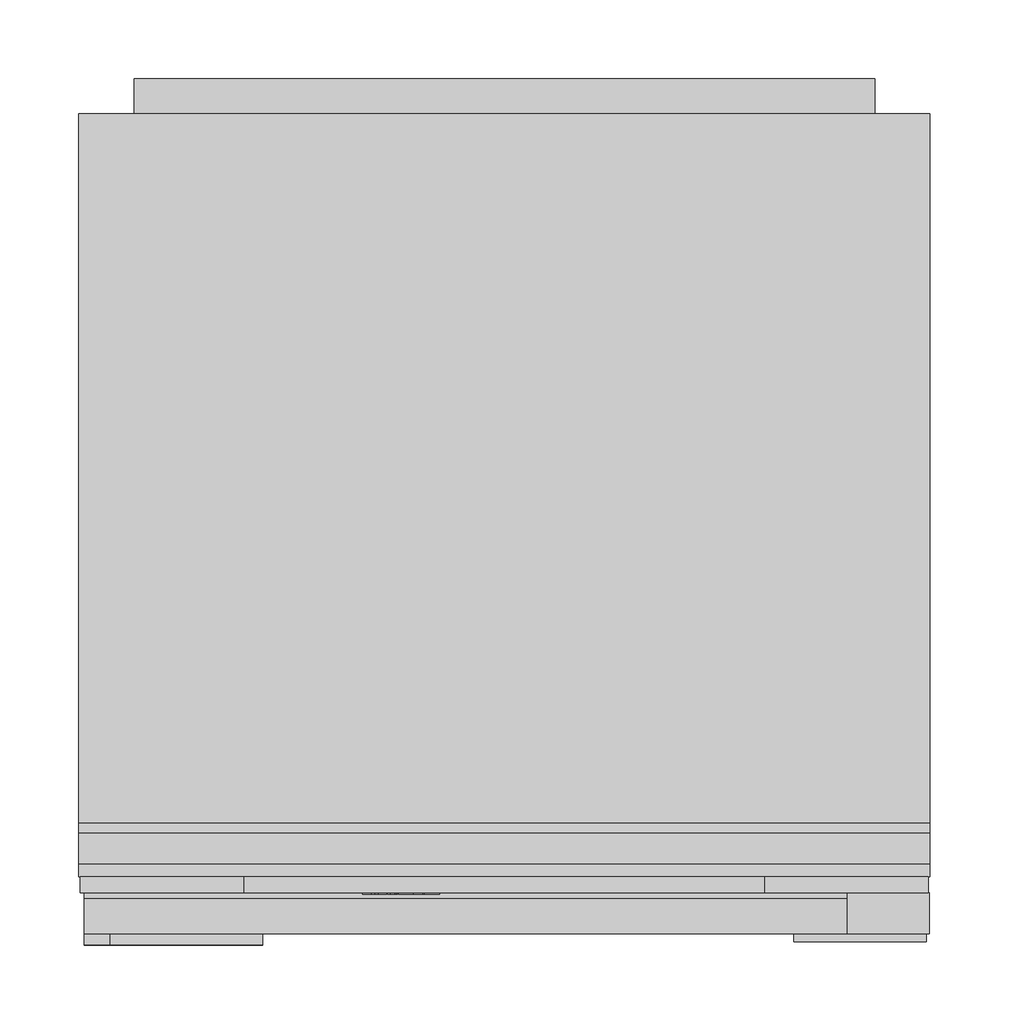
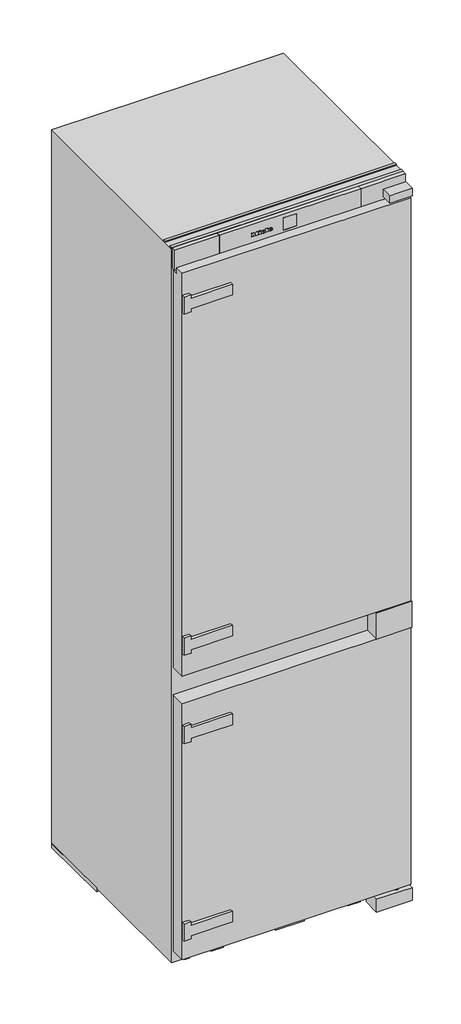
# Not in any storey: 1 proxy.
"""IFC4 building model written with IfcOpenShell, lengths in millimetres."""

import ifcopenshell
import ifcopenshell.guid

model = None  # the IFC model being written
_history = None  # IfcOwnerHistory: only IFC2X3 demands one
_inside = {}  # id of a spatial element -> (the spatial element, [elements in it])
_under = {}  # id of a project, library or spatial element -> (it, [spatial elements below it])
_declared = {}  # id of a project -> (the project, [libraries it declares])
_typed = {}  # id of a type object -> (the type object, [elements of that type])
_made_of = {}  # id of a material, layer set ... -> (it, [elements and type objects made of it])


def new_model(schema):
    """Start an empty IFC model of exactly this schema.

    Asked for "IFC4X3", IfcOpenShell would pick the latest addendum, in which some entities
    have other attributes; the version numbers below select the first issue.
    IFC2X3 requires an IfcOwnerHistory on every rooted entity: one is made here for all.
    """
    global model, _history
    if schema == "IFC4X3":
        model = ifcopenshell.file(schema_version=(4, 3, 0, 0))
    else:
        model = ifcopenshell.file(schema=schema)
    _inside.clear()
    _under.clear()
    _declared.clear()
    _typed.clear()
    _made_of.clear()
    _history = None
    if model.schema == "IFC2X3":
        org = make("IfcOrganization", Name="unknown")
        user = make(
            "IfcPersonAndOrganization",
            ThePerson=make("IfcPerson", FamilyName="unknown"),
            TheOrganization=org,
        )
        app = make(
            "IfcApplication",
            ApplicationDeveloper=org,
            Version="unknown",
            ApplicationFullName="unknown",
            ApplicationIdentifier="unknown",
        )
        _history = make(
            "IfcOwnerHistory",
            OwningUser=user,
            OwningApplication=app,
            ChangeAction="ADDED",
            CreationDate=0,
        )
    return model


def make(cls, **values):
    """One entity of the class cls with the attributes given. An attribute that is None is left unset."""
    return model.create_entity(
        cls, **{name: value for name, value in values.items() if value is not None}
    )


def rooted(cls, **values):
    """An entity with a GlobalId (a new one), such as an element, a storey or a relation."""
    return make(cls, GlobalId=ifcopenshell.guid.new(), OwnerHistory=_history, **values)


def si_unit(unit_type, name, prefix=None):
    """IfcSIUnit, for example si_unit("LENGTHUNIT", "METRE", prefix="MILLI")."""
    return make("IfcSIUnit", UnitType=unit_type, Prefix=prefix, Name=name)


def assignment(units):
    """IfcUnitAssignment: the units of a project."""
    return None if units is None else make("IfcUnitAssignment", Units=units)


def point(xyz):
    """IfcCartesianPoint."""
    return None if xyz is None else make("IfcCartesianPoint", Coordinates=xyz)


def direction(xyz):
    """IfcDirection."""
    return None if xyz is None else make("IfcDirection", DirectionRatios=xyz)


def frame(location, z_axis=None, x_axis=None):
    """IfcAxis2Placement3D, a coordinate frame: its origin and axes. An axis left out is left unset."""
    return make(
        "IfcAxis2Placement3D",
        Location=point(location),
        Axis=direction(z_axis),
        RefDirection=direction(x_axis),
    )


def frame_2d(location, x_axis=None):
    """IfcAxis2Placement2D, a coordinate frame in the plane: its origin and x axis."""
    return make(
        "IfcAxis2Placement2D", Location=point(location), RefDirection=direction(x_axis)
    )


def origin():
    """The frame at (0, 0, 0) with its axes left unset."""
    return frame((0.0, 0.0, 0.0))


def origin_with_axes():
    """The frame at (0, 0, 0) with the z axis (0, 0, 1) and the x axis (1, 0, 0) written out."""
    return frame((0.0, 0.0, 0.0), z_axis=(0.0, 0.0, 1.0), x_axis=(1.0, 0.0, 0.0))


def place(relative_to, where):
    """IfcLocalPlacement: puts the frame where relative to a parent placement (None: the world)."""
    return make(
        "IfcLocalPlacement", PlacementRelTo=relative_to, RelativePlacement=where
    )


def context(
    kind, dimensions, precision=None, world=None, true_north=None, identifier=None
):
    """IfcGeometricRepresentationContext, for example the 3D "Model" context."""
    return make(
        "IfcGeometricRepresentationContext",
        ContextIdentifier=identifier,
        ContextType=kind,
        CoordinateSpaceDimension=dimensions,
        Precision=precision,
        WorldCoordinateSystem=world,
        TrueNorth=true_north,
    )


def project(units=None, contexts=None):
    """IfcProject with its units and contexts."""
    return rooted(
        "IfcProject",
        Name="project",
        RepresentationContexts=contexts,
        UnitsInContext=assignment(units),
    )


def spatial(cls, under=None, at=None, **own):
    """A site, building, storey or space (cls), placed at a placement, below another one or the project."""
    s = rooted(cls, ObjectPlacement=at, **own)
    if under is not None:
        _under.setdefault(under.id(), (under, []))[1].append(s)
    return s


def polyline(points):
    """IfcPolyline through the points."""
    return make("IfcPolyline", Points=[point(p) for p in points])


def circle_curve(where, radius):
    """IfcCircle in the frame where."""
    return make("IfcCircle", Position=where, Radius=radius)


def ellipse_curve(where, semi_axis1, semi_axis2):
    """IfcEllipse in the frame where."""
    return make(
        "IfcEllipse", Position=where, SemiAxis1=semi_axis1, SemiAxis2=semi_axis2
    )


def trimmed(basis, trim1, trim2, sense, master):
    """IfcTrimmedCurve: the piece of a basis curve between two trims."""
    return make(
        "IfcTrimmedCurve",
        BasisCurve=basis,
        Trim1=trim1,
        Trim2=trim2,
        SenseAgreement=sense,
        MasterRepresentation=master,
    )


def segment(curve, same_sense, transition):
    """IfcCompositeCurveSegment."""
    return make(
        "IfcCompositeCurveSegment",
        Transition=transition,
        SameSense=same_sense,
        ParentCurve=curve,
    )


def composite_curve(segments, self_intersect=None):
    """IfcCompositeCurve: segments joined end to end."""
    return make("IfcCompositeCurve", Segments=segments, SelfIntersect=self_intersect)


def outline(outer, holes=None, kind="AREA"):
    """IfcArbitraryClosedProfileDef: a profile drawn as a closed curve; with holes, ...WithVoids."""
    if holes is None:
        return make("IfcArbitraryClosedProfileDef", ProfileType=kind, OuterCurve=outer)
    return make(
        "IfcArbitraryProfileDefWithVoids",
        ProfileType=kind,
        OuterCurve=outer,
        InnerCurves=holes,
    )


def extrude(swept, where, along, depth):
    """IfcExtrudedAreaSolid: the profile swept, set in the frame where, extruded along a direction by depth."""
    return make(
        "IfcExtrudedAreaSolid",
        SweptArea=swept,
        Position=where,
        ExtrudedDirection=direction(along),
        Depth=depth,
    )


def faces_of(points, faces, orient=None, outer=None):
    """IfcFace entities. A face is a list of loops; a loop is a list of indices into points, from 0.

    orient and outer hold one flag for each loop. By default every Orientation is true, the
    first loop of a face is its IfcFaceOuterBound and the others are IfcFaceBound.
    """
    made = []
    for i, loops in enumerate(faces):
        bounds = []
        for j, loop in enumerate(loops):
            is_outer = j == 0 if outer is None else outer[i][j]
            bounds.append(
                make(
                    "IfcFaceOuterBound" if is_outer else "IfcFaceBound",
                    Bound=make("IfcPolyLoop", Polygon=[points[k] for k in loop]),
                    Orientation=True if orient is None else orient[i][j],
                )
            )
        made.append(make("IfcFace", Bounds=bounds))
    return made


def faceted_brep(points, faces, orient=None, outer=None, voids=None):
    """IfcFacetedBrep: a solid bounded by flat faces; with voids (closed shells), ...WithVoids."""
    shared = [point(p) for p in points]
    hull = make("IfcClosedShell", CfsFaces=faces_of(shared, faces, orient, outer))
    if voids is None:
        return make("IfcFacetedBrep", Outer=hull)
    return make(
        "IfcFacetedBrepWithVoids",
        Outer=hull,
        Voids=[
            make(cls, CfsFaces=faces_of(shared, fs, o, b)) for cls, fs, o, b in voids
        ],
    )


def shape(context_of_items, identifier, shape_type, items):
    """IfcShapeRepresentation: the items that make up one representation, for example the "Body"."""
    return make(
        "IfcShapeRepresentation",
        ContextOfItems=context_of_items,
        RepresentationIdentifier=identifier,
        RepresentationType=shape_type,
        Items=items,
    )


def source(mapping_origin, context_of_items, identifier, shape_type, items):
    """IfcRepresentationMap: a shape defined once, which mapped items show again and again."""
    return make(
        "IfcRepresentationMap",
        MappingOrigin=mapping_origin,
        MappedRepresentation=shape(context_of_items, identifier, shape_type, items),
    )


def transform(
    local_origin,
    x_axis=None,
    y_axis=None,
    z_axis=None,
    scale=None,
    scale2=None,
    scale3=None,
    uniform=True,
):
    """IfcCartesianTransformationOperator3D, or its non-uniform kind. x_axis, y_axis, z_axis: its Axis1, 2, 3."""
    if uniform:
        return make(
            "IfcCartesianTransformationOperator3D",
            Axis1=direction(x_axis),
            Axis2=direction(y_axis),
            LocalOrigin=point(local_origin),
            Scale=scale,
            Axis3=direction(z_axis),
        )
    return make(
        "IfcCartesianTransformationOperator3DnonUniform",
        Axis1=direction(x_axis),
        Axis2=direction(y_axis),
        LocalOrigin=point(local_origin),
        Scale=scale,
        Axis3=direction(z_axis),
        Scale2=scale2,
        Scale3=scale3,
    )


def mapped(mapping_source, mapping_target):
    """IfcMappedItem: shows the shape of a source again, moved by a transform."""
    return make(
        "IfcMappedItem", MappingSource=mapping_source, MappingTarget=mapping_target
    )


def made_of(thing, what):
    """Note that an element or type object is made of a material, layer set ...; save() writes the relation."""
    if what is not None:
        _made_of.setdefault(what.id(), (what, []))[1].append(thing)
    return thing


def element(
    cls,
    number,
    at=None,
    inside=None,
    cuts=None,
    type_object=None,
    material=None,
    context=None,
    identifier="Body",
    shape_type=None,
    held_by="IfcProductDefinitionShape",
    body=None,
    shapes=None,
    **own,
):
    """One element of the class cls, such as IfcWall. Its Tag is "e" and its number.

    at: its placement. inside: the storey or other place that contains it. cuts: it is an
    opening in that element (IfcRelVoidsElement). A single representation is given by context,
    identifier, shape_type and body (its items); several are given by shapes. held_by: the class
    of the entity that holds the representations. save() writes the other relations.
    """
    e = rooted(cls, Tag="e%d" % number, ObjectPlacement=at, **own)
    if body is not None:
        shapes = [shape(context, identifier, shape_type, body)]
    if shapes is not None:
        e.Representation = make(held_by, Representations=shapes)
    if inside is not None:
        _inside.setdefault(inside.id(), (inside, []))[1].append(e)
    if cuts is not None:
        rooted(
            "IfcRelVoidsElement", RelatingBuildingElement=cuts, RelatedOpeningElement=e
        )
    if type_object is not None:
        _typed.setdefault(type_object.id(), (type_object, []))[1].append(e)
    return made_of(e, material)


def aggregate(whole, parts):
    """IfcRelAggregates: a whole, such as a stair, and the parts it consists of."""
    return rooted("IfcRelAggregates", RelatingObject=whole, RelatedObjects=parts)


def save(model, path):
    """Write the relations noted so far, then the file.

    IfcRelAggregates (storeys below a building ...), IfcRelContainedInSpatialStructure (elements
    in a storey), IfcRelDefinesByType, IfcRelAssociatesMaterial and IfcRelDeclares: one each for
    every whole, place, type object, material and project.
    """
    for whole, parts in _under.values():
        aggregate(whole, parts)
    for where, things in _inside.values():
        rooted(
            "IfcRelContainedInSpatialStructure",
            RelatedElements=things,
            RelatingStructure=where,
        )
    for kind, things in _typed.values():
        rooted("IfcRelDefinesByType", RelatedObjects=things, RelatingType=kind)
    for what, things in _made_of.values():
        rooted("IfcRelAssociatesMaterial", RelatedObjects=things, RelatingMaterial=what)
    for by, libraries in _declared.values():
        rooted("IfcRelDeclares", RelatingContext=by, RelatedDefinitions=libraries)
    model.write(path)


def plane_surface(at):
    """IfcPlane: the flat surface through the origin of the frame at, square to its z axis."""
    return make("IfcPlane", Position=at)


def cylinder_surface(at, radius):
    """IfcCylindricalSurface: all points at the distance radius from the z axis of the frame at."""
    return make("IfcCylindricalSurface", Position=at, Radius=radius)


def revolved_surface(curve, axis_point, axis_direction):
    """IfcSurfaceOfRevolution: the curve turned about the line through axis_point along axis_direction."""
    return make(
        "IfcSurfaceOfRevolution",
        SweptCurve=make("IfcArbitraryOpenProfileDef", ProfileType="CURVE", Curve=curve),
        AxisPosition=make("IfcAxis1Placement", Location=point(axis_point), Axis=direction(axis_direction)),
    )


def extruded_surface(curve, direction_of_extrusion, depth):
    """IfcSurfaceOfLinearExtrusion: the curve pushed along a direction by depth."""
    return make(
        "IfcSurfaceOfLinearExtrusion",
        SweptCurve=make("IfcArbitraryOpenProfileDef", ProfileType="CURVE", Curve=curve),
        ExtrudedDirection=direction(direction_of_extrusion),
        Depth=depth,
    )


def advanced_brep(points, edges, surfaces, faces):
    """IfcAdvancedBrep: a solid bounded by faces that lie on surfaces and meet in shared edges.

    An edge is (start, end): straight between two places in points (the first is 0);
    or (start, end, curve); or (start, end, curve, False) where it runs against its curve.
    A face is (place in surfaces, loops), or (place, loops, False) where it looks against
    its surface's normal. A loop lists edges by number (the first is 1), with a minus sign
    where the edge is run from its end to its start. The first loop is the outer one.
    """
    corners = [point(p) for p in points]
    vertices = [make("IfcVertexPoint", VertexGeometry=c) for c in corners]
    made = []
    for start, end, *more in edges:
        made.append(
            make(
                "IfcEdgeCurve",
                EdgeStart=vertices[start],
                EdgeEnd=vertices[end],
                EdgeGeometry=more[0] if more else make("IfcPolyline", Points=[corners[start], corners[end]]),
                SameSense=more[1] if len(more) > 1 else True,
            )
        )
    hull = []
    for where, loops, *sense in faces:
        bounds = []
        for j, loop in enumerate(loops):
            ring = [make("IfcOrientedEdge", EdgeElement=made[abs(k) - 1], Orientation=k > 0) for k in loop]
            bounds.append(
                make(
                    "IfcFaceOuterBound" if j == 0 else "IfcFaceBound",
                    Bound=make("IfcEdgeLoop", EdgeList=ring),
                    Orientation=True,
                )
            )
        hull.append(make("IfcAdvancedFace", Bounds=bounds, FaceSurface=surfaces[where], SameSense=sense[0] if sense else True))
    return make("IfcAdvancedBrep", Outer=make("IfcClosedShell", CfsFaces=hull))


def specialty_equipment_90f1e37e(model_context):
    return source(origin(), model_context, "Body", "SolidModel", [
        advanced_brep(
        [(-46.64, 32.0, 1742.896), (-46.64, 32.0, 1743.704), (-41.288, 32.0, 1743.704), (-50.6, 32.0, 1743.704), (-48.4, 32.0, 1741.0), (-41.424, 32.0, 1742.896), (-43.84, 32.0, 1742.896), (-45.744, 32.0, 1742.0), (-46.64, 32.0, 1744.728), (-46.64, 32.0, 1745.6), (-45.272, 32.0, 1745.6), (-45.272, 32.0, 1744.728), (-46.64, 33.0, 1742.896), (-45.744, 33.0, 1742.0), (-43.84, 33.0, 1742.896), (-41.424, 33.0, 1742.896), (-48.4, 33.0, 1741.0), (-50.6, 33.0, 1743.704), (-41.288, 33.0, 1743.704), (-46.64, 33.0, 1743.704), (-46.64, 33.0, 1744.728), (-45.272, 33.0, 1744.728), (-45.272, 33.0, 1745.6), (-46.64, 33.0, 1745.6)],
        [
            (0, 1),
            (1, 2),
            (2, 3, ellipse_curve(frame((-45.944, 32.0, 1743.704), z_axis=(0.0, -1.0, 0.0), x_axis=(-1.0, 0.0, 0.0)), 4.656, 3.848)),
            (3, 4, circle_curve(frame((-47.5039564, 32.0, 1743.976), z_axis=(0.0, -1.0, 0.0), x_axis=(0.0, 0.0, -1.0)), 3.1079688)),
            (4, 5, circle_curve(frame((-46.0372064, 32.0, 1746.088), z_axis=(0.0, -1.0, 0.0), x_axis=(0.0, 0.0, -1.0)), 5.6098607)),
            (5, 6),
            (6, 7, circle_curve(frame((-45.3529412, 32.0, 1743.64), z_axis=(0.0, 1.0, 0.0), x_axis=(0.0, 0.0, -1.0)), 1.6859795)),
            (7, 0, circle_curve(frame((-45.744, 32.0, 1742.896), z_axis=(0.0, 1.0, 0.0), x_axis=(0.0, 0.0, -1.0)), 0.896)),
            (8, 9),
            (9, 10, circle_curve(frame((-45.956, 32.0, 1745.6), z_axis=(0.0, 1.0, 0.0), x_axis=(0.0, 0.0, -1.0)), 0.684)),
            (10, 11),
            (11, 8),
            (12, 13, circle_curve(frame((-45.744, 33.0, 1742.896), z_axis=(0.0, -1.0, 0.0), x_axis=(0.0, 0.0, -1.0)), 0.896)),
            (13, 14, circle_curve(frame((-45.3529412, 33.0, 1743.64), z_axis=(0.0, -1.0, 0.0), x_axis=(0.0, 0.0, -1.0)), 1.6859795)),
            (14, 15),
            (15, 16, circle_curve(frame((-46.0372064, 33.0, 1746.088), z_axis=(0.0, 1.0, 0.0), x_axis=(0.0, 0.0, -1.0)), 5.6098607)),
            (16, 17, circle_curve(frame((-47.5039564, 33.0, 1743.976), z_axis=(0.0, 1.0, 0.0), x_axis=(0.0, 0.0, -1.0)), 3.1079688)),
            (17, 18, ellipse_curve(frame((-45.944, 33.0, 1743.704), z_axis=(0.0, 1.0, 0.0), x_axis=(-1.0, 0.0, 0.0)), 4.656, 3.848)),
            (18, 19),
            (19, 12),
            (20, 21),
            (21, 22),
            (22, 23, circle_curve(frame((-45.956, 33.0, 1745.6), z_axis=(0.0, -1.0, 0.0), x_axis=(0.0, 0.0, -1.0)), 0.684)),
            (23, 20),
            (0, 12),
            (19, 1),
            (18, 2),
            (5, 15),
            (14, 6),
            (17, 3),
            (13, 7),
            (16, 4),
            (8, 20),
            (23, 9),
            (22, 10),
            (21, 11),
        ],
        [
            plane_surface(frame((-46.64, 32.0, 1743.704), z_axis=(0.0, -1.0, 0.0), x_axis=(0.0, 0.0, 1.0))),
            plane_surface(frame((-46.64, 33.0, 1743.704), z_axis=(0.0, 1.0, 0.0), x_axis=(0.0, 0.0, -1.0))),
            plane_surface(frame((-46.64, 32.0, 1742.896), z_axis=(1.0, 0.0, 0.0), x_axis=(0.0, 1.0, 0.0))),
            plane_surface(frame((-46.64, 32.0, 1743.704), z_axis=(0.0, 0.0, -1.0), x_axis=(0.0, 1.0, 0.0))),
            plane_surface(frame((-41.424, 32.0, 1742.896), z_axis=(0.0, 0.0, 1.0), x_axis=(0.0, 1.0, 0.0))),
            extruded_surface(trimmed(ellipse_curve(frame((-45.944, 34.0, 1743.704), z_axis=(0.0, -1.0, 0.0), x_axis=(-1.0, 0.0, 0.0)), 4.656, 3.848), [point((-41.288, 34.0, 1743.704))], [point((-50.6, 34.0, 1743.704))], True, "CARTESIAN"), (0.0, -1.0, 0.0), 1.0),
            revolved_surface(polyline([(-45.3529412, 33.0, 1741.9540205), (-45.3529412, 32.0, 1741.9540205)]), (-45.3529412, 33.0, 1743.64), (0.0, 1.0, 0.0)),
            revolved_surface(polyline([(-45.744, 33.0, 1742.0), (-45.744, 32.0, 1742.0)]), (-45.744, 33.0, 1742.896), (0.0, 1.0, 0.0)),
            cylinder_surface(frame((-47.5039564, 33.0, 1743.976), z_axis=(0.0, -1.0, 0.0), x_axis=(0.0, 0.0, -1.0)), 3.1079688),
            cylinder_surface(frame((-46.0372064, 33.0, 1746.088), z_axis=(0.0, -1.0, 0.0), x_axis=(0.0, 0.0, -1.0)), 5.6098607),
            plane_surface(frame((-46.64, 32.0, 1744.728), z_axis=(1.0, 0.0, 0.0), x_axis=(0.0, 1.0, 0.0))),
            revolved_surface(polyline([(-45.956, 33.0, 1744.916), (-45.956, 32.0, 1744.916)]), (-45.956, 33.0, 1745.6), (0.0, 1.0, 0.0)),
            plane_surface(frame((-45.272, 32.0, 1745.6), z_axis=(-1.0, 0.0, 0.0), x_axis=(0.0, 1.0, 0.0))),
            plane_surface(frame((-45.272, 32.0, 1744.728), z_axis=(0.0, 0.0, 1.0), x_axis=(0.0, 1.0, 0.0))),
        ],
        [
            (0, [[1, 2, 3, 4, 5, 6, 7, 8], [9, 10, 11, 12]]),
            (1, [[13, 14, 15, 16, 17, 18, 19, 20], [21, 22, 23, 24]]),
            (2, [[-1, 25, -20, 26]]),
            (3, [[-2, -26, -19, 27]]),
            (4, [[-6, 28, -15, 29]]),
            (5, [[-3, -27, -18, 30]]),
            (6, [[-7, -29, -14, 31]]),
            (7, [[-8, -31, -13, -25]]),
            (8, [[-4, -30, -17, 32]]),
            (9, [[-5, -32, -16, -28]]),
            (10, [[-9, 33, -24, 34]]),
            (11, [[-10, -34, -23, 35]]),
            (12, [[-11, -35, -22, 36]]),
            (13, [[-12, -36, -21, -33]]),
        ],
    ),
        advanced_brep(
        [(-63.336, 32.0, 1742.896), (-63.336, 32.0, 1743.704), (-57.984, 32.0, 1743.704), (-67.296, 32.0, 1743.704), (-65.096, 32.0, 1741.0), (-58.12, 32.0, 1742.896), (-60.536, 32.0, 1742.896), (-62.44, 32.0, 1742.0), (-63.336, 32.0, 1744.728), (-63.336, 32.0, 1745.6), (-61.968, 32.0, 1745.6), (-61.968, 32.0, 1744.728), (-63.336, 33.0, 1742.896), (-62.44, 33.0, 1742.0), (-60.536, 33.0, 1742.896), (-58.12, 33.0, 1742.896), (-65.096, 33.0, 1741.0), (-67.296, 33.0, 1743.704), (-57.984, 33.0, 1743.704), (-63.336, 33.0, 1743.704), (-63.336, 33.0, 1744.728), (-61.968, 33.0, 1744.728), (-61.968, 33.0, 1745.6), (-63.336, 33.0, 1745.6)],
        [
            (0, 1),
            (1, 2),
            (2, 3, ellipse_curve(frame((-62.64, 32.0, 1743.704), z_axis=(0.0, -1.0, 0.0), x_axis=(-1.0, 0.0, 0.0)), 4.656, 3.848)),
            (3, 4, circle_curve(frame((-64.1999564, 32.0, 1743.976), z_axis=(0.0, -1.0, 0.0), x_axis=(0.0, 0.0, -1.0)), 3.1079688)),
            (4, 5, circle_curve(frame((-62.7332064, 32.0, 1746.088), z_axis=(0.0, -1.0, 0.0), x_axis=(0.0, 0.0, -1.0)), 5.6098607)),
            (5, 6),
            (6, 7, circle_curve(frame((-62.0489412, 32.0, 1743.64), z_axis=(0.0, 1.0, 0.0), x_axis=(0.0, 0.0, -1.0)), 1.6859795)),
            (7, 0, circle_curve(frame((-62.44, 32.0, 1742.896), z_axis=(0.0, 1.0, 0.0), x_axis=(0.0, 0.0, -1.0)), 0.896)),
            (8, 9),
            (9, 10, circle_curve(frame((-62.652, 32.0, 1745.6), z_axis=(0.0, 1.0, 0.0), x_axis=(0.0, 0.0, -1.0)), 0.684)),
            (10, 11),
            (11, 8),
            (12, 13, circle_curve(frame((-62.44, 33.0, 1742.896), z_axis=(0.0, -1.0, 0.0), x_axis=(0.0, 0.0, -1.0)), 0.896)),
            (13, 14, circle_curve(frame((-62.0489412, 33.0, 1743.64), z_axis=(0.0, -1.0, 0.0), x_axis=(0.0, 0.0, -1.0)), 1.6859795)),
            (14, 15),
            (15, 16, circle_curve(frame((-62.7332064, 33.0, 1746.088), z_axis=(0.0, 1.0, 0.0), x_axis=(0.0, 0.0, -1.0)), 5.6098607)),
            (16, 17, circle_curve(frame((-64.1999564, 33.0, 1743.976), z_axis=(0.0, 1.0, 0.0), x_axis=(0.0, 0.0, -1.0)), 3.1079688)),
            (17, 18, ellipse_curve(frame((-62.64, 33.0, 1743.704), z_axis=(0.0, 1.0, 0.0), x_axis=(-1.0, 0.0, 0.0)), 4.656, 3.848)),
            (18, 19),
            (19, 12),
            (20, 21),
            (21, 22),
            (22, 23, circle_curve(frame((-62.652, 33.0, 1745.6), z_axis=(0.0, -1.0, 0.0), x_axis=(0.0, 0.0, -1.0)), 0.684)),
            (23, 20),
            (0, 12),
            (19, 1),
            (18, 2),
            (5, 15),
            (14, 6),
            (17, 3),
            (13, 7),
            (16, 4),
            (8, 20),
            (23, 9),
            (22, 10),
            (21, 11),
        ],
        [
            plane_surface(frame((-63.336, 32.0, 1743.704), z_axis=(0.0, -1.0, 0.0), x_axis=(0.0, 0.0, 1.0))),
            plane_surface(frame((-63.336, 33.0, 1743.704), z_axis=(0.0, 1.0, 0.0), x_axis=(0.0, 0.0, -1.0))),
            plane_surface(frame((-63.336, 32.0, 1742.896), z_axis=(1.0, 0.0, 0.0), x_axis=(0.0, 1.0, 0.0))),
            plane_surface(frame((-63.336, 32.0, 1743.704), z_axis=(0.0, 0.0, -1.0), x_axis=(0.0, 1.0, 0.0))),
            plane_surface(frame((-58.12, 32.0, 1742.896), z_axis=(0.0, 0.0, 1.0), x_axis=(0.0, 1.0, 0.0))),
            extruded_surface(trimmed(ellipse_curve(frame((-62.64, 34.0, 1743.704), z_axis=(0.0, -1.0, 0.0), x_axis=(-1.0, 0.0, 0.0)), 4.656, 3.848), [point((-57.984, 34.0, 1743.704))], [point((-67.296, 34.0, 1743.704))], True, "CARTESIAN"), (0.0, -1.0, 0.0), 1.0),
            revolved_surface(polyline([(-62.0489412, 33.0, 1741.9540205), (-62.0489412, 32.0, 1741.9540205)]), (-62.0489412, 33.0, 1743.64), (0.0, 1.0, 0.0)),
            revolved_surface(polyline([(-62.44, 33.0, 1742.0), (-62.44, 32.0, 1742.0)]), (-62.44, 33.0, 1742.896), (0.0, 1.0, 0.0)),
            cylinder_surface(frame((-64.1999564, 33.0, 1743.976), z_axis=(0.0, -1.0, 0.0), x_axis=(0.0, 0.0, -1.0)), 3.1079688),
            cylinder_surface(frame((-62.7332064, 33.0, 1746.088), z_axis=(0.0, -1.0, 0.0), x_axis=(0.0, 0.0, -1.0)), 5.6098607),
            plane_surface(frame((-63.336, 32.0, 1744.728), z_axis=(1.0, 0.0, 0.0), x_axis=(0.0, 1.0, 0.0))),
            revolved_surface(polyline([(-62.652, 33.0, 1744.916), (-62.652, 32.0, 1744.916)]), (-62.652, 33.0, 1745.6), (0.0, 1.0, 0.0)),
            plane_surface(frame((-61.968, 32.0, 1745.6), z_axis=(-1.0, 0.0, 0.0), x_axis=(0.0, 1.0, 0.0))),
            plane_surface(frame((-61.968, 32.0, 1744.728), z_axis=(0.0, 0.0, 1.0), x_axis=(0.0, 1.0, 0.0))),
        ],
        [
            (0, [[1, 2, 3, 4, 5, 6, 7, 8], [9, 10, 11, 12]]),
            (1, [[13, 14, 15, 16, 17, 18, 19, 20], [21, 22, 23, 24]]),
            (2, [[-1, 25, -20, 26]]),
            (3, [[-2, -26, -19, 27]]),
            (4, [[-6, 28, -15, 29]]),
            (5, [[-3, -27, -18, 30]]),
            (6, [[-7, -29, -14, 31]]),
            (7, [[-8, -31, -13, -25]]),
            (8, [[-4, -30, -17, 32]]),
            (9, [[-5, -32, -16, -28]]),
            (10, [[-9, 33, -24, 34]]),
            (11, [[-10, -34, -23, 35]]),
            (12, [[-11, -35, -22, 36]]),
            (13, [[-12, -36, -21, -33]]),
        ],
    ),
        extrude(outline(polyline([(1748.528, -72.08), (1747.232, -71.472), (1748.496, -68.76), (1749.792, -69.36), (1748.528, -72.08)])), frame((0.0, 32.0, 0.0), z_axis=(0.0, 1.0, 0.0), x_axis=(0.0, 0.0, 1.0)), (0.0, 0.0, 1.0), 1.0),
        extrude(outline(polyline([(1747.056, -74.056), (1745.624, -74.056), (1745.624, -73.104), (1742.344, -73.104), (1742.344, -74.056), (1741.0, -74.056), (1741.0, -67.744), (1742.344, -67.744), (1742.344, -68.672), (1747.056, -68.672), (1747.056, -74.056)])), frame((0.0, 32.0, 0.0), z_axis=(0.0, 1.0, 0.0), x_axis=(0.0, 0.0, 1.0)), (0.0, 0.0, 1.0), 1.0),
        extrude(outline(polyline([(1747.696, -57.536), (1747.696, -56.576), (1742.344, -56.576), (1742.344, -57.536), (1741.0, -57.536), (1741.0, -51.048), (1742.344, -51.048), (1742.344, -52.032), (1749.0, -52.032), (1749.0, -57.536), (1747.696, -57.536)])), frame((0.0, 32.0, 0.0), z_axis=(0.0, 1.0, 0.0), x_axis=(0.0, 0.0, 1.0)), (0.0, 0.0, 1.0), 1.0),
        extrude(outline(polyline([(1747.696, -90.0), (1747.696, -89.032), (1742.344, -89.032), (1742.344, -90.0), (1741.0, -90.0), (1741.0, -86.48), (1742.344, -86.48), (1742.344, -87.44), (1745.7471247, -87.44), (1741.0, -83.864), (1745.8152223, -80.272), (1742.344, -80.272), (1742.344, -81.256), (1741.0, -81.256), (1741.0, -74.872), (1742.344, -74.872), (1742.344, -75.888), (1747.696, -75.888), (1747.696, -74.872), (1749.0, -74.872), (1749.0, -79.744), (1746.0, -82.08), (1749.0, -84.424), (1749.0, -90.0), (1747.696, -90.0)])), frame((0.0, 32.0, 0.0), z_axis=(0.0, 1.0, 0.0), x_axis=(0.0, 0.0, 1.0)), (0.0, 0.0, 1.0), 1.0),
        extrude(outline(polyline([(616.0, -250.5), (616.0, -266.5), (574.0, -266.5), (574.0, -250.5), (582.0, -250.5), (582.0, -153.5), (608.0, -153.5), (608.0, -250.5), (616.0, -250.5)])), frame((0.0, 0.0, 0.0), z_axis=(0.0, 1.0, 0.0), x_axis=(0.0, 0.0, 1.0)), (0.0, 0.0, 1.0), 7.0),
        extrude(outline(polyline([(130.0, -250.5), (130.0, -266.5), (88.0, -266.5), (88.0, -250.5), (96.0, -250.5), (96.0, -153.5), (122.0, -153.5), (122.0, -250.5), (130.0, -250.5)])), frame((0.0, 0.0, 0.0), z_axis=(0.0, 1.0, 0.0), x_axis=(0.0, 0.0, 1.0)), (0.0, 0.0, 1.0), 7.0),
        extrude(outline(polyline([(1632.0, -266.5), (1632.0, -250.5), (1640.0, -250.5), (1640.0, -153.5), (1666.0, -153.5), (1666.0, -250.5), (1674.0, -250.5), (1674.0, -266.5), (1632.0, -266.5)])), frame((0.0, 0.0, 0.0), z_axis=(0.0, 1.0, 0.0), x_axis=(0.0, 0.0, 1.0)), (0.0, 0.0, 1.0), 7.0),
        extrude(outline(polyline([(792.0, -266.5), (792.0, -250.5), (800.0, -250.5), (800.0, -153.5), (826.0, -153.5), (826.0, -250.5), (834.0, -250.5), (834.0, -266.5), (792.0, -266.5)])), frame((0.0, 0.0, 0.0), z_axis=(0.0, 1.0, 0.0), x_axis=(0.0, 0.0, 1.0)), (0.0, 0.0, 1.0), 7.0),
        extrude(outline(polyline([(7.0, 736.0), (7.0, 1728.0), (29.0, 1728.0), (29.0, 1715.0), (43.0, 1715.0), (43.0, 736.0), (7.0, 736.0)])), frame((-266.5, 0.0, 0.0), z_axis=(1.0, 0.0, 0.0), x_axis=(0.0, 1.0, 0.0)), (0.0, 0.0, 1.0), 533.0),
        extrude(outline(polyline([(268.5, 7.0), (186.5, 7.0), (186.5, 43.0), (268.5, 43.0), (268.5, 7.0)]), holes=[composite_curve([segment(trimmed(circle_curve(frame_2d((236.5, 16.0)), 6.0), [point((242.5, 16.0))], [point((230.5, 16.0))], True, "CARTESIAN"), True, "CONTINUOUS"), segment(trimmed(circle_curve(frame_2d((236.5, 16.0)), 6.0), [point((230.5, 16.0))], [point((242.5, 16.0))], True, "CARTESIAN"), True, "CONTINUOUS")], self_intersect=False)]), frame((0.0, 0.0, 669.0), z_axis=(0.0, 0.0, 1.0), x_axis=(1.0, 0.0, 0.0)), (0.0, 0.0, 1.0), 64.0),
        extrude(outline(polyline([(183.5, 43.0), (267.5, 43.0), (267.5, 2.0), (183.5, 2.0), (183.5, 43.0)])), frame((0.0, 0.0, 1.0), z_axis=(0.0, 0.0, 1.0), x_axis=(1.0, 0.0, 0.0)), (0.0, 0.0, 1.0), 31.0),
        extrude(outline(polyline([(269.5, 7.0), (217.5, 7.0), (217.5, 33.0), (269.5, 33.0), (269.5, 7.0)])), frame((0.0, 0.0, 1731.0), z_axis=(0.0, 0.0, 1.0), x_axis=(1.0, 0.0, 0.0)), (0.0, 0.0, 1.0), 19.0),
        extrude(outline(polyline([(-266.5, 43.0), (266.5, 43.0), (266.5, 7.0), (-266.5, 7.0), (-266.5, 43.0)])), frame((0.0, 0.0, 38.0), z_axis=(0.0, 0.0, 1.0), x_axis=(1.0, 0.0, 0.0)), (0.0, 0.0, 1.0), 631.0),
        extrude(outline(composite_curve([segment(trimmed(circle_curve(frame_2d((236.5, 16.0)), 6.0), [point((242.5, 16.0))], [point((230.5, 16.0))], False, "CARTESIAN"), True, "CONTINUOUS"), segment(trimmed(circle_curve(frame_2d((236.5, 16.0)), 6.0), [point((230.5, 16.0))], [point((242.5, 16.0))], False, "CARTESIAN"), True, "CONTINUOUS")], self_intersect=False)), frame((0.0, 0.0, 669.0), z_axis=(0.0, 0.0, 1.0), x_axis=(1.0, 0.0, 0.0)), (0.0, 0.0, 1.0), 67.0),
        extrude(outline(composite_curve([segment(trimmed(circle_curve(frame_2d((236.5, 16.0)), 6.0), [point((236.5, 22.0))], [point((236.5, 10.0))], False, "CARTESIAN"), True, "CONTINUOUS"), segment(trimmed(circle_curve(frame_2d((236.5, 16.0)), 6.0), [point((236.5, 10.0))], [point((236.5, 22.0))], False, "CARTESIAN"), True, "CONTINUOUS")], self_intersect=False)), frame((0.0, 0.0, 1728.0), z_axis=(0.0, 0.0, 1.0), x_axis=(1.0, 0.0, 0.0)), (0.0, 0.0, 1.0), 3.0),
        extrude(outline(composite_curve([segment(trimmed(circle_curve(frame_2d((236.5, 16.0)), 6.0), [point((242.5, 16.0))], [point((230.5, 16.0))], False, "CARTESIAN"), True, "CONTINUOUS"), segment(trimmed(circle_curve(frame_2d((236.5, 16.0)), 6.0), [point((230.5, 16.0))], [point((242.5, 16.0))], False, "CARTESIAN"), True, "CONTINUOUS")], self_intersect=False)), frame((0.0, 0.0, 32.0), z_axis=(0.0, 0.0, 1.0), x_axis=(1.0, 0.0, 0.0)), (0.0, 0.0, 1.0), 6.0),
        faceted_brep([(165.0, 33.0, 1770.0), (-165.0, 33.0, 1770.0), (-165.0, 33.0, 1721.0), (165.0, 33.0, 1721.0), (15.0, 33.0, 1761.0), (15.0, 33.0, 1731.0), (-15.0, 33.0, 1731.0), (-15.0, 33.0, 1761.0), (165.0, 43.0, 1770.0), (165.0, 43.0, 1721.0), (-165.0, 43.0, 1721.0), (-165.0, 43.0, 1770.0), (15.0, 34.0, 1761.0), (-15.0, 34.0, 1761.0), (-15.0, 34.0, 1731.0), (15.0, 34.0, 1731.0)], [[[0, 1, 2, 3], [4, 5, 6, 7]], [[8, 9, 10, 11]], [[0, 3, 9, 8]], [[3, 2, 10, 9]], [[2, 1, 11, 10]], [[1, 0, 8, 11]], [[12, 13, 14, 15]], [[12, 15, 5, 4]], [[15, 14, 6, 5]], [[14, 13, 7, 6]], [[13, 12, 4, 7]]]),
        extrude(outline(polyline([(165.0, 43.0), (269.0, 43.0), (269.0, 33.0), (165.0, 33.0), (165.0, 43.0)])), frame((0.0, 0.0, 1721.0), z_axis=(0.0, 0.0, 1.0), x_axis=(1.0, 0.0, 0.0)), (0.0, 0.0, 1.0), 49.0),
        extrude(outline(polyline([(-269.0, 43.0), (-165.0, 43.0), (-165.0, 33.0), (-269.0, 33.0), (-269.0, 43.0)])), frame((0.0, 0.0, 1721.0), z_axis=(0.0, 0.0, 1.0), x_axis=(1.0, 0.0, 0.0)), (0.0, 0.0, 1.0), 49.0),
        extrude(outline(polyline([(-15.0, 34.0), (15.0, 34.0), (15.0, 33.0), (-15.0, 33.0), (-15.0, 34.0)])), frame((0.0, 0.0, 1731.0), z_axis=(0.0, 0.0, 1.0), x_axis=(1.0, 0.0, 0.0)), (0.0, 0.0, 1.0), 30.0),
        extrude(outline(polyline([(1647.0, -235.0), (27.0, -235.0), (27.0, 235.0), (130.0, 235.0), (130.0, 180.0), (160.0, 180.0), (160.0, 235.0), (1647.0, 235.0), (1647.0, -235.0)])), frame((0.0, 527.0, 0.0), z_axis=(0.0, 1.0, 0.0), x_axis=(0.0, 0.0, 1.0)), (0.0, 0.0, 1.0), 22.0),
        extrude(outline(polyline([(-144.929185, 51.0), (-174.0, 51.0), (-194.6983363, 347.0), (-165.6275213, 347.0), (-144.929185, 51.0)])), origin_with_axes(), (0.0, 0.0, 1.0), 10.0),
        extrude(outline(polyline([(144.929185, 51.0), (165.6275213, 347.0), (194.6983363, 347.0), (174.0, 51.0), (144.929185, 51.0)])), origin_with_axes(), (0.0, 0.0, 1.0), 10.0),
        extrude(outline(polyline([(540.4384039, 149.874164), (547.6647626, 149.874164), (547.6647626, 139.824714), (540.2826236, 139.824714), (540.2826236, 141.0836119), (546.4056247, 141.0836119), (546.4056247, 144.3750411), (540.7614845, 144.3750411), (540.7614845, 145.6249589), (546.4056247, 145.6249589), (546.4056247, 148.6148402), (540.4384039, 148.6148402), (540.4384039, 149.874164)])), frame((194.0, 0.0, 0.0), z_axis=(1.0, 0.0, 0.0), x_axis=(0.0, 1.0, 0.0)), (0.0, 0.0, 1.0), 1.0),
        extrude(outline(polyline([(537.1383052, 149.8716162), (538.399354, 149.8716162), (538.399354, 139.824714), (532.1225656, 139.824714), (532.1225656, 141.0927041), (537.1383052, 141.0927041), (537.1383052, 149.8716162)])), frame((194.0, 0.0, 0.0), z_axis=(1.0, 0.0, 0.0), x_axis=(0.0, 1.0, 0.0)), (0.0, 0.0, 1.0), 1.0),
        advanced_brep(
        [(232.5, 527.0, 145.0), (217.5, 527.0, 145.0), (232.5, 548.5, 145.0), (217.5, 533.5, 145.0), (195.0, 548.5, 145.0), (195.0, 533.5, 145.0)],
        [
            (0, 1, circle_curve(frame((225.0, 527.0, 145.0), z_axis=(0.0, -1.0, 0.0), x_axis=(-1.0, 0.0, 0.0)), 7.5)),
            (1, 0, circle_curve(frame((225.0, 527.0, 145.0), z_axis=(0.0, -1.0, 0.0), x_axis=(-1.0, 0.0, 0.0)), 7.5)),
            (0, 2),
            (2, 3, ellipse_curve(frame((225.0, 541.0, 145.0), z_axis=(0.7071067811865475, -0.7071067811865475, 0.0), x_axis=(-0.7071067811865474, -0.7071067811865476, 0.0)), 10.6066017, 7.5)),
            (3, 1),
            (3, 2, ellipse_curve(frame((225.0, 541.0, 145.0), z_axis=(0.7071067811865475, -0.7071067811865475, 0.0), x_axis=(-0.7071067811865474, -0.7071067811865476, 0.0)), 10.6066017, 7.5)),
            (4, 5, circle_curve(frame((195.0, 541.0, 145.0), z_axis=(-1.0, 0.0, 0.0), x_axis=(0.0, -1.0, 0.0)), 7.5)),
            (5, 4, circle_curve(frame((195.0, 541.0, 145.0), z_axis=(-1.0, 0.0, 0.0), x_axis=(0.0, -1.0, 0.0)), 7.5)),
            (2, 4),
            (5, 3),
        ],
        [
            plane_surface(frame((225.0, 527.0, 145.0), z_axis=(0.0, -1.0, 0.0), x_axis=(0.0, 0.0, 1.0))),
            cylinder_surface(frame((225.0, 527.0, 145.0), z_axis=(0.0, -1.0, 0.0), x_axis=(-1.0, 0.0, 0.0)), 7.5),
            plane_surface(frame((195.0, 541.0, 145.0), z_axis=(-1.0, 0.0, 0.0), x_axis=(0.0, 0.0, 1.0))),
            cylinder_surface(frame((225.0, 541.0, 145.0), z_axis=(1.0, 0.0, 0.0), x_axis=(0.0, -1.0, 0.0)), 7.5),
        ],
        [
            (0, [[1, 2]]),
            (1, [[-1, 3, 4, 5]]),
            (1, [[-2, -5, 6, -3]]),
            (2, [[7, 8]]),
            (3, [[-4, 9, -8, 10]]),
            (3, [[-6, -10, -7, -9]]),
        ],
    ),
        extrude(outline(polyline([(-34.0, 43.0), (34.0, 43.0), (34.0, 34.0), (-34.0, 34.0), (-34.0, 43.0)])), frame((0.0, 0.0, 13.0), z_axis=(0.0, 0.0, 1.0), x_axis=(1.0, 0.0, 0.0)), (0.0, 0.0, 1.0), 19.0),
        extrude(outline(polyline([(270.0, 51.0), (270.0, 43.0), (-270.0, 43.0), (-270.0, 51.0), (270.0, 51.0)])), frame((0.0, 0.0, 1767.0), z_axis=(0.0, 0.0, 1.0), x_axis=(1.0, 0.0, 0.0)), (0.0, 0.0, 1.0), 3.0),
        extrude(outline(polyline([(270.0, 77.0), (270.0, 71.0), (-270.0, 71.0), (-270.0, 77.0), (270.0, 77.0)])), frame((0.0, 0.0, 1767.0), z_axis=(0.0, 0.0, 1.0), x_axis=(1.0, 0.0, 0.0)), (0.0, 0.0, 1.0), 3.0),
        extrude(outline(polyline([(-234.0, 43.0), (-234.0, 489.0), (234.0, 489.0), (234.0, 43.0), (-234.0, 43.0)])), frame((0.0, 0.0, 960.0), z_axis=(0.0, 0.0, 1.0), x_axis=(1.0, 0.0, 0.0)), (0.0, 0.0, 1.0), 3.0),
        extrude(outline(polyline([(-209.0, 311.0), (-209.0, 450.0), (209.0, 450.0), (209.0, 311.0), (-209.0, 311.0)])), frame((0.0, 0.0, 93.0), z_axis=(0.0, 0.0, 1.0), x_axis=(1.0, 0.0, 0.0)), (0.0, 0.0, 1.0), 181.0),
        extrude(outline(composite_curve([segment(trimmed(circle_curve(frame_2d((228.0, 63.0)), 11.0), [point((239.0, 63.0))], [point((217.0, 63.0))], False, "CARTESIAN"), True, "CONTINUOUS"), segment(trimmed(circle_curve(frame_2d((228.0, 63.0)), 11.0), [point((217.0, 63.0))], [point((239.0, 63.0))], False, "CARTESIAN"), True, "CONTINUOUS")], self_intersect=False)), origin_with_axes(), (0.0, 0.0, 1.0), 10.0),
        extrude(outline(composite_curve([segment(trimmed(circle_curve(frame_2d((-228.0, 63.0)), 11.0), [point((-217.0, 63.0))], [point((-239.0, 63.0))], False, "CARTESIAN"), True, "CONTINUOUS"), segment(trimmed(circle_curve(frame_2d((-228.0, 63.0)), 11.0), [point((-239.0, 63.0))], [point((-217.0, 63.0))], False, "CARTESIAN"), True, "CONTINUOUS")], self_intersect=False)), origin_with_axes(), (0.0, 0.0, 1.0), 10.0),
        extrude(outline(polyline([(270.0, 527.0), (270.0, 347.0), (-270.0, 347.0), (-270.0, 527.0), (270.0, 527.0)])), origin_with_axes(), (0.0, 0.0, 1.0), 10.0),
        faceted_brep([(270.0, 527.0, 1767.0), (-270.0, 527.0, 1767.0), (-270.0, 43.0, 1767.0), (270.0, 43.0, 1767.0), (270.0, 527.0, 10.0), (270.0, 43.0, 10.0), (-270.0, 43.0, 10.0), (-270.0, 527.0, 10.0), (234.0, 43.0, 1692.0), (234.0, 43.0, 765.0), (-234.0, 43.0, 765.0), (-234.0, 43.0, 1692.0), (209.0, 43.0, 633.0), (209.0, 43.0, 93.0), (-209.0, 43.0, 93.0), (-209.0, 43.0, 633.0), (234.0, 489.0, 1692.0), (-234.0, 489.0, 1692.0), (-234.0, 489.0, 765.0), (234.0, 489.0, 765.0), (209.0, 450.0, 633.0), (209.0, 450.0, 93.0), (-209.0, 450.0, 633.0), (-209.0, 450.0, 93.0)], [[[0, 1, 2, 3]], [[4, 5, 6, 7]], [[1, 0, 4, 7]], [[2, 1, 7, 6]], [[3, 2, 6, 5], [8, 9, 10, 11], [12, 13, 14, 15]], [[0, 3, 5, 4]], [[16, 17, 18, 19]], [[16, 19, 9, 8]], [[19, 18, 10, 9]], [[18, 17, 11, 10]], [[17, 16, 8, 11]], [[20, 21, 13, 12]], [[22, 15, 14, 23]], [[21, 20, 22, 23]], [[13, 21, 23, 14]], [[20, 12, 15, 22]]]),
    ])


model = new_model("IFC4")

# Units and contexts
model_context = context("Model", 3, world=origin())
ifc_project = project(units=[si_unit("LENGTHUNIT", "METRE", prefix="MILLI")], contexts=[model_context])

# Site, building
site = spatial("IfcSite", under=ifc_project)
building = spatial("IfcBuilding", under=site)

# Proxy
placement = place(None, origin())
specialty_equipment_shape = specialty_equipment_90f1e37e(model_context)
element("IfcBuildingElementProxy", 1, Name="12445080_EU1_KFN7733E : 38773305_EU1_12445080_KFN7733E", ObjectType="12445080_EU1_KFN7733E : 38773305_EU1_12445080_KFN7733E", at=placement, inside=building, context=model_context, shape_type="MappedRepresentation", body=[
    mapped(specialty_equipment_shape, transform((0.0, 0.0, 0.0), x_axis=(1.0, 0.0, 0.0), y_axis=(0.0, 1.0, 0.0), z_axis=(0.0, 0.0, 1.0))),
])

save(model, "model.ifc")
